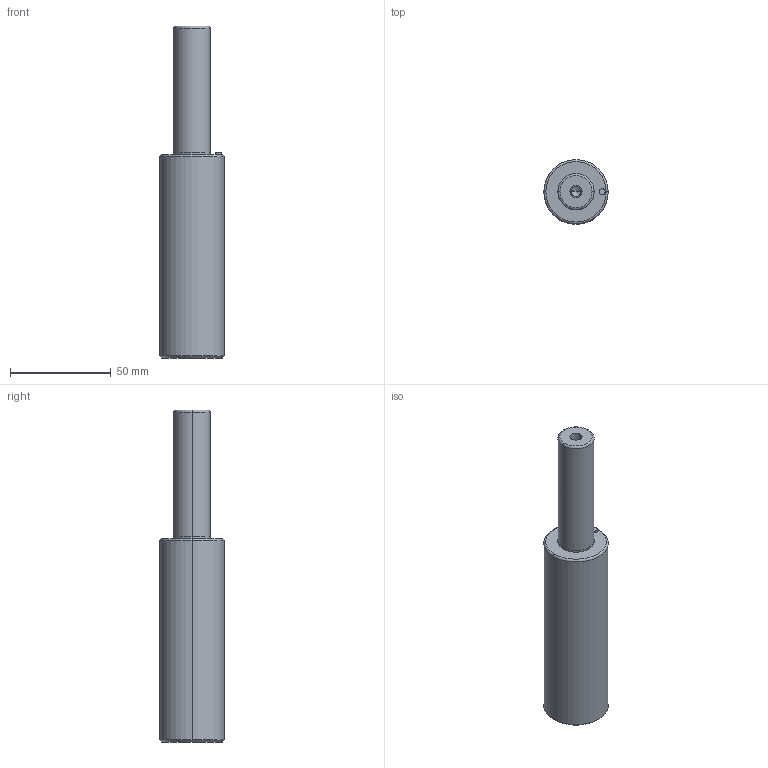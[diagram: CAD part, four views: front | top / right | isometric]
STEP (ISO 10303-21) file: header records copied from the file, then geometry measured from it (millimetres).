
FILE_DESCRIPTION(/* description */ (''),/* implementation_level */ '2;1');
FILE_NAME(/* name */ '3d_gsc32-63_03827_r00.stp',/* time_stamp */ '2011-01-10T14:15:22+09:00',/* author */ ('MISUMI'),/* organization */ (''),/* preprocessor_version */ 'ST-DEVELOPER v11',/* originating_system */ 'UGS - NX 5.0',/* authorisation */ '');
FILE_SCHEMA (('CONFIG_CONTROL_DESIGN'));
Length unit declared in the file: millimetre
Products named in the file (1): 3d_gsc32-63_03827_r00
Bounding box: 32 x 32 x 165 mm (x, y, z)
Volume: 96850.7 mm3; surface area: 15664.1 mm2
Topology: 1 solids, 1 shells, 32 faces, 66 edges, 38 vertices
Faces by surface type: cylinder 16, cone 6, plane 6, torus 4
Entity records: 912 total; most frequent: DIRECTION 168, CARTESIAN_POINT 133, ORIENTED_EDGE 124, AXIS2_PLACEMENT_3D 73, EDGE_CURVE 62, CIRCLE 40, EDGE_LOOP 38, VERTEX_POINT 38
